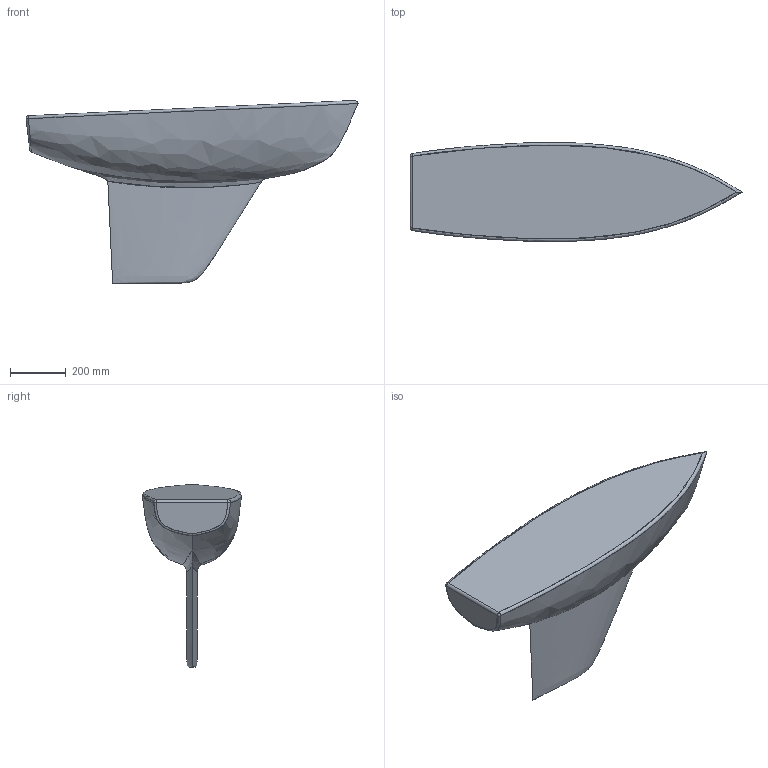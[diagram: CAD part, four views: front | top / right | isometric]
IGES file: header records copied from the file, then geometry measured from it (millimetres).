
Global section: file name: \\Mac\Home\Desktop\Stuff\My Research\Aberystwyth-sabbatical\MaxiMOOP\maximoopv3.2.igs; native system: Rhinoceros ( Aug 10 2015 ); preprocessor: Trout Lake IGES 012 Aug 10 2015; date: 161006.113721; units: inch
Bounding box: 1190.3 x 355.25 x 656.04 mm (x, y, z)
Surface area: 1370468.8 mm2 (no closed solid volume)
Topology: 0 solids, 0 shells, 15 faces, 441 edges, 441 vertices
Faces by surface type: bspline 15
